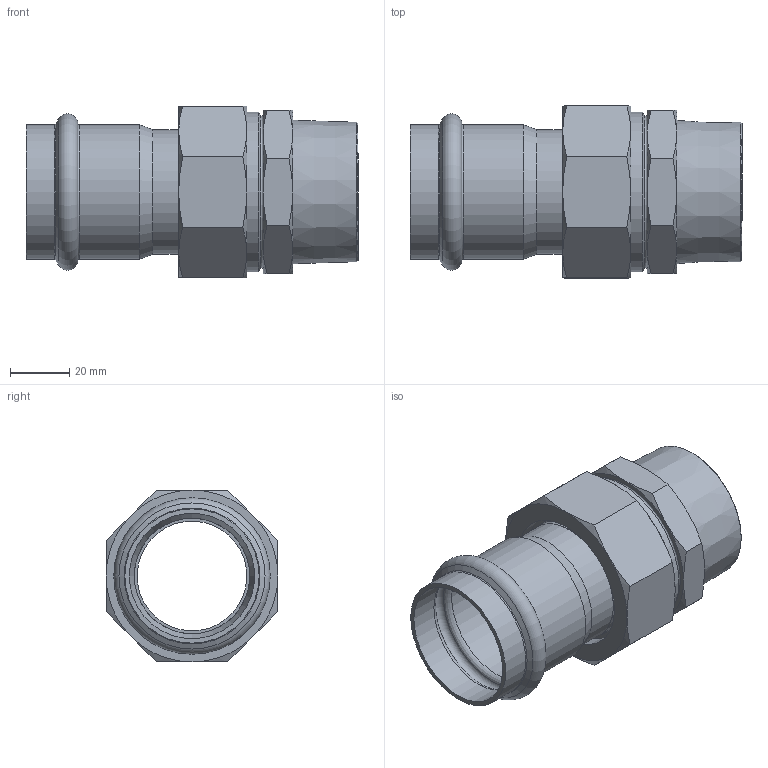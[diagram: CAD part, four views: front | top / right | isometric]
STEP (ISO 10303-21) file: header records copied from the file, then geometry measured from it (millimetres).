
FILE_DESCRIPTION((''),'2;1');
FILE_NAME('G:\Nirosan-Schmiedefeld\Technics\CAD\Bauteile VA\042\69333gmva42112(2).stp','2011-05-24T10:16:08',('herberg'),(''),'Autodesk Inventor 2009','Autodesk Inventor 2009','');
FILE_SCHEMA(('AUTOMOTIVE_DESIGN { 1 0 10303 214 1 1 1 1 }'));
Length unit declared in the file: millimetre
Products named in the file (7): 69333gmva42112(2); 69359m42134(2); HM_6924342(2); R42134(1); FD_5037_EPDM(0); AM42134(3); 69376G134112(1)
Assembly tree (6 placements, depth 3):
  69333gmva42112(2)
    69359m42134(2)
      HM_6924342(2)
      R42134(1)
      FD_5037_EPDM(0)
      AM42134(3)
    69376G134112(1)
Bounding box: 112 x 58 x 58 mm (x, y, z)
Volume: 73622.4 mm3; surface area: 48770.3 mm2
Topology: 5 solids, 5 shells, 96 faces, 196 edges, 114 vertices
Faces by surface type: cone 41, plane 29, cylinder 12, bspline 11, torus 3
Full cylindrical faces by diameter (mm): 37 x1, 39 x2, 42 x2, 42.3 x2, 45.3 x2, 49 x1, 50 x1, 53.746 x1
Entity records: 2705 total; most frequent: CARTESIAN_POINT 813, DIRECTION 368, ORIENTED_EDGE 316, AXIS2_PLACEMENT_3D 176, EDGE_CURVE 158, EDGE_LOOP 144, VERTEX_POINT 110, FACE_OUTER_BOUND 96
